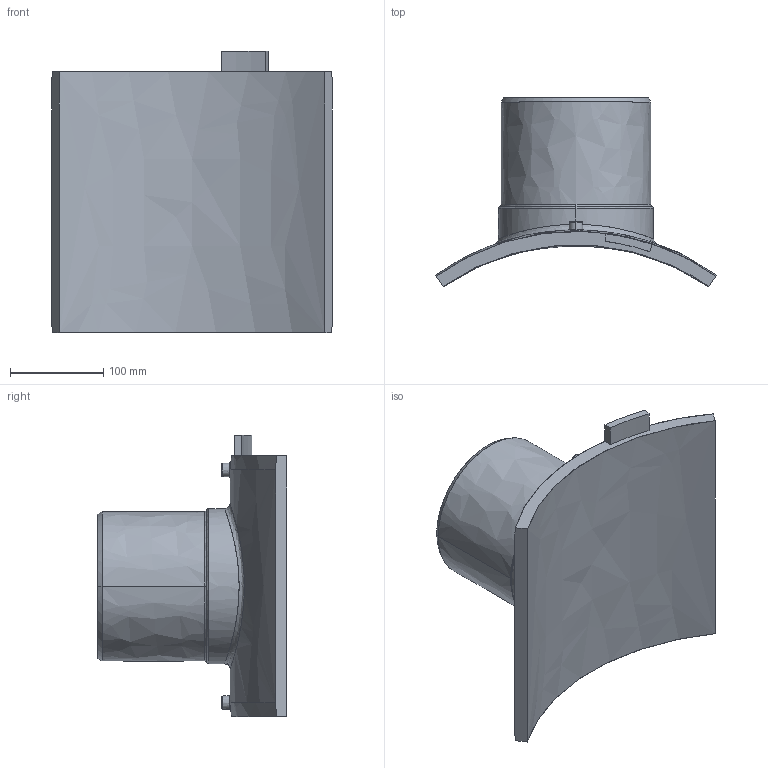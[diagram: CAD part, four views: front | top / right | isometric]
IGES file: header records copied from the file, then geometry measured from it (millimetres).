
Start section:  PTC IGES file: sa-uni_d500_160_01.igs
Global section: file name: sa-uni_d500_160_01.igs; native system: Pro/ENGINEER by Parametric Technology Corporation; preprocessor: 2011490; author: MikulicP; organization: Unknown; date: 20170207.093751; units: millimetre
Bounding box: 300.53 x 202.32 x 301 mm (x, y, z)
Surface area: 336279.7 mm2 (no closed solid volume)
Topology: 0 solids, 0 shells, 202 faces, 994 edges, 992 vertices
Faces by surface type: bspline 202
